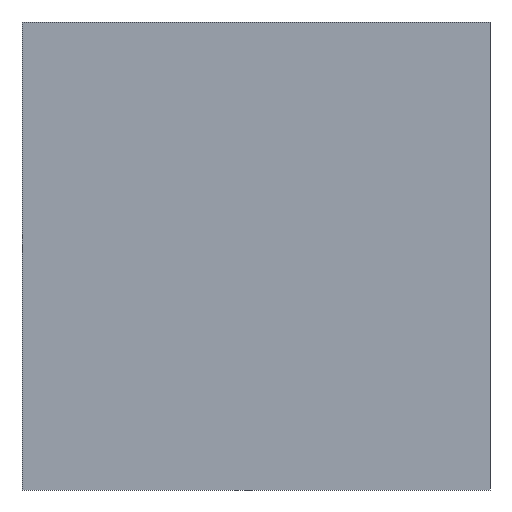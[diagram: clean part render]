
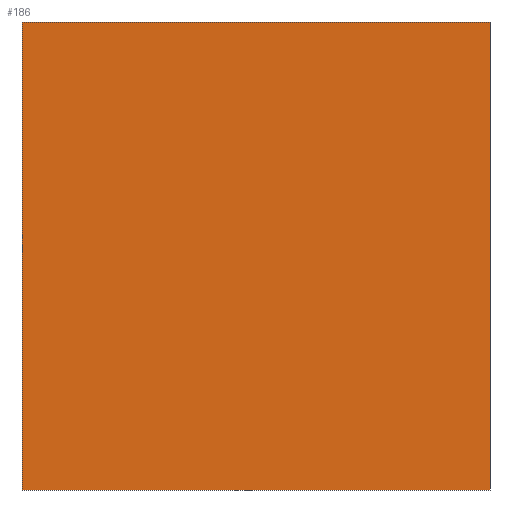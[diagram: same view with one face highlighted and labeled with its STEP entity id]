
A CAD part, front view. The second image highlights one B-rep face of the part: STEP entity #186.
In plain terms, the highlighted planar face has unit normal (0, -1, 0).
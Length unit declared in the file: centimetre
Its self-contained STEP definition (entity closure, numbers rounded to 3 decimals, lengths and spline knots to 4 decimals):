
#14 = ORIENTED_EDGE ( 'NONE', *, *, #75, .T. ) ;
#15 = CARTESIAN_POINT ( 'NONE',  ( 0., 0., 1000. ) ) ;
#28 = ORIENTED_EDGE ( 'NONE', *, *, #456, .T. ) ;
#36 = CARTESIAN_POINT ( 'NONE',  ( 0., 0., 0. ) ) ;
#43 = DIRECTION ( 'NONE',  ( 1., 0., 0. ) ) ;
#52 = CARTESIAN_POINT ( 'NONE',  ( 0., 0., 1000. ) ) ;
#69 = VERTEX_POINT ( 'NONE', #90 ) ;
#75 = EDGE_CURVE ( 'NONE', #69, #343, #446, .T. ) ;
#82 = ORIENTED_EDGE ( 'NONE', *, *, #417, .F. ) ;
#90 = CARTESIAN_POINT ( 'NONE',  ( 0., 0., 0. ) ) ;
#95 = DIRECTION ( 'NONE',  ( 0., 0., -1. ) ) ;
#118 = PLANE ( 'NONE',  #401 ) ;
#134 = DIRECTION ( 'NONE',  ( 1., 0., 0. ) ) ;
#139 = CARTESIAN_POINT ( 'NONE',  ( 1000., 0., 0. ) ) ;
#146 = EDGE_LOOP ( 'NONE', ( #14, #339, #82, #28 ) ) ;
#181 = LINE ( 'NONE', #259, #204 ) ;
#185 = VECTOR ( 'NONE', #43, 100. ) ;
#186 = ADVANCED_FACE ( 'NONE', ( #518 ), #118, .F. ) ;
#198 = DIRECTION ( 'NONE',  ( 0., 1., 0. ) ) ;
#204 = VECTOR ( 'NONE', #134, 100. ) ;
#213 = CARTESIAN_POINT ( 'NONE',  ( 1000., 0., 1000. ) ) ;
#235 = VERTEX_POINT ( 'NONE', #445 ) ;
#259 = CARTESIAN_POINT ( 'NONE',  ( 0., 0., 1000. ) ) ;
#281 = CARTESIAN_POINT ( 'NONE',  ( 0., 0., 1000. ) ) ;
#339 = ORIENTED_EDGE ( 'NONE', *, *, #360, .F. ) ;
#343 = VERTEX_POINT ( 'NONE', #139 ) ;
#360 = EDGE_CURVE ( 'NONE', #235, #343, #500, .T. ) ;
#371 = DIRECTION ( 'NONE',  ( 0., 0., 1. ) ) ;
#384 = LINE ( 'NONE', #15, #463 ) ;
#401 = AXIS2_PLACEMENT_3D ( 'NONE', #281, #198, #371 ) ;
#417 = EDGE_CURVE ( 'NONE', #465, #235, #181, .T. ) ;
#445 = CARTESIAN_POINT ( 'NONE',  ( 1000., 0., 1000. ) ) ;
#446 = LINE ( 'NONE', #36, #185 ) ;
#451 = DIRECTION ( 'NONE',  ( 0., 0., -1. ) ) ;
#456 = EDGE_CURVE ( 'NONE', #465, #69, #384, .T. ) ;
#463 = VECTOR ( 'NONE', #95, 100. ) ;
#465 = VERTEX_POINT ( 'NONE', #52 ) ;
#492 = VECTOR ( 'NONE', #451, 100. ) ;
#500 = LINE ( 'NONE', #213, #492 ) ;
#518 = FACE_OUTER_BOUND ( 'NONE', #146, .T. ) ;
